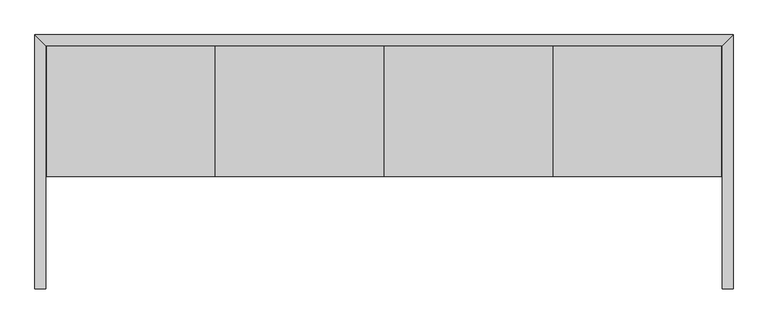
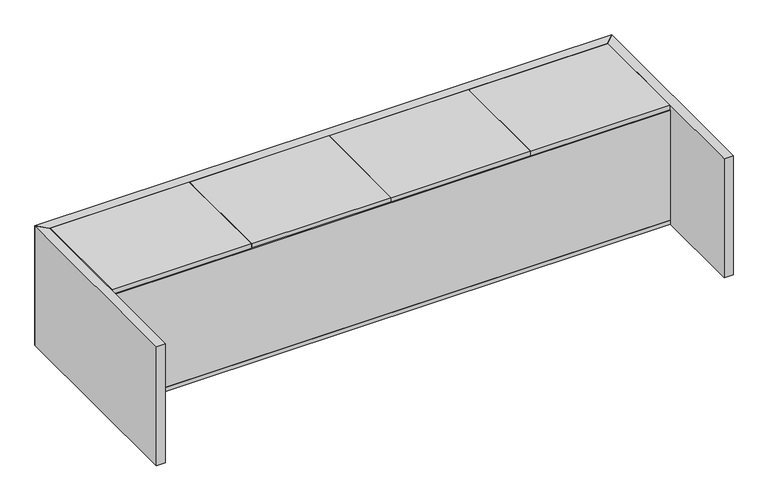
"""IFC4 building model written with IfcOpenShell, lengths in millimetres: proxy geometry, FOUNDATION^RAISED STORAGE CREDENZA_35x96 4 DOOR-PARTS SOLID."""

from ifc_helpers import new_model, si_unit, frame, origin, origin_with_axes, place, context, project, spatial, polyline, outline, extrude, source, transform, mapped, element, save


def generic_models_cdf38a76(model_context):
    return source(origin(), model_context, "Body", "SweptSolid", [
        extrude(outline(polyline([(38.1, 393.7), (38.1, 850.9), (2400.3, 850.9), (2400.3, 393.7), (38.1, 393.7)])), origin_with_axes(), (0.0, 0.0, 1.0), 19.05),
        extrude(outline(polyline([(2438.4, 889.0), (2400.3, 850.9), (38.1, 850.9), (0.0, 889.0), (2438.4, 889.0)])), origin_with_axes(), (0.0, 0.0, 1.0), 533.4),
        extrude(outline(polyline([(1209.675, 850.9), (1228.725, 850.9), (1228.725, 412.75), (1209.675, 412.75), (1209.675, 850.9)])), frame((0.0, 0.0, 19.05), z_axis=(0.0, 0.0, 1.0), x_axis=(1.0, 0.0, 0.0)), (0.0, 0.0, 1.0), 492.125),
        extrude(outline(polyline([(1824.0375, 412.75), (1804.9875, 412.75), (1804.9875, 850.9), (1824.0375, 850.9), (1824.0375, 412.75)])), frame((0.0, 0.0, 19.05), z_axis=(0.0, 0.0, 1.0), x_axis=(1.0, 0.0, 0.0)), (0.0, 0.0, 1.0), 492.125),
        extrude(outline(polyline([(633.4125, 412.75), (614.3625, 412.75), (614.3625, 850.9), (633.4125, 850.9), (633.4125, 412.75)])), frame((0.0, 0.0, 19.05), z_axis=(0.0, 0.0, 1.0), x_axis=(1.0, 0.0, 0.0)), (0.0, 0.0, 1.0), 492.125),
        extrude(outline(polyline([(1810.3453125, 393.7), (1810.3453125, 848.51875), (2397.91875, 848.51875), (2397.91875, 393.7), (1810.3453125, 393.7)])), frame((0.0, 0.0, 514.35), z_axis=(0.0, 0.0, 1.0), x_axis=(1.0, 0.0, 0.0)), (0.0, 0.0, 1.0), 19.05),
        extrude(outline(polyline([(630.4359375, 393.7), (630.4359375, 848.51875), (1218.009375, 848.51875), (1218.009375, 393.7), (630.4359375, 393.7)])), frame((0.0, 0.0, 514.35), z_axis=(0.0, 0.0, 1.0), x_axis=(1.0, 0.0, 0.0)), (0.0, 0.0, 1.0), 19.05),
        extrude(outline(polyline([(2400.3, 393.7), (38.1, 393.7), (38.1, 412.75), (2400.3, 412.75), (2400.3, 393.7)])), frame((0.0, 0.0, 19.05), z_axis=(0.0, 0.0, 1.0), x_axis=(1.0, 0.0, 0.0)), (0.0, 0.0, 1.0), 492.125),
        extrude(outline(polyline([(2400.3, 850.9), (2438.4, 889.0), (2438.4, 0.0), (2400.3, 0.0), (2400.3, 850.9)])), origin_with_axes(), (0.0, 0.0, 1.0), 533.4),
        extrude(outline(polyline([(38.1, 0.0), (0.0, 0.0), (0.0, 889.0), (38.1, 850.9), (38.1, 0.0)])), origin_with_axes(), (0.0, 0.0, 1.0), 533.4),
        extrude(outline(polyline([(1220.390625, 393.7), (1220.390625, 848.51875), (1807.9640625, 848.51875), (1807.9640625, 393.7), (1220.390625, 393.7)])), frame((0.0, 0.0, 514.35), z_axis=(0.0, 0.0, 1.0), x_axis=(1.0, 0.0, 0.0)), (0.0, 0.0, 1.0), 19.05),
        extrude(outline(polyline([(40.48125, 393.7), (40.48125, 848.51875), (628.0546875, 848.51875), (628.0546875, 393.7), (40.48125, 393.7)])), frame((0.0, 0.0, 514.35), z_axis=(0.0, 0.0, 1.0), x_axis=(1.0, 0.0, 0.0)), (0.0, 0.0, 1.0), 19.05),
    ])


if __name__ == "__main__":
    model = new_model("IFC4")
    model_context = context("Model", 3, world=origin())
    ifc_project = project(units=[si_unit("LENGTHUNIT", "METRE", prefix="MILLI")], contexts=[model_context])
    site = spatial("IfcSite", under=ifc_project)
    building = spatial("IfcBuilding", under=site)
    placement = place(None, origin())
    generic_models_shape = generic_models_cdf38a76(model_context)
    element("IfcBuildingElementProxy", 1, Name="FOUNDATION^RAISED STORAGE CREDENZA_35x96 4 DOOR-PARTS SOLID", ObjectType="FOUNDATION^RAISED STORAGE CREDENZA_35x96 4 DOOR-PARTS SOLID", at=placement, inside=building, context=model_context, shape_type="MappedRepresentation", body=[
        mapped(generic_models_shape, transform((0.0, 0.0, 0.0), x_axis=(1.0, 0.0, 0.0), y_axis=(0.0, 1.0, 0.0), z_axis=(0.0, 0.0, 1.0))),
    ])
    save(model, "model.ifc")
